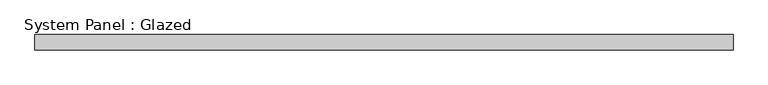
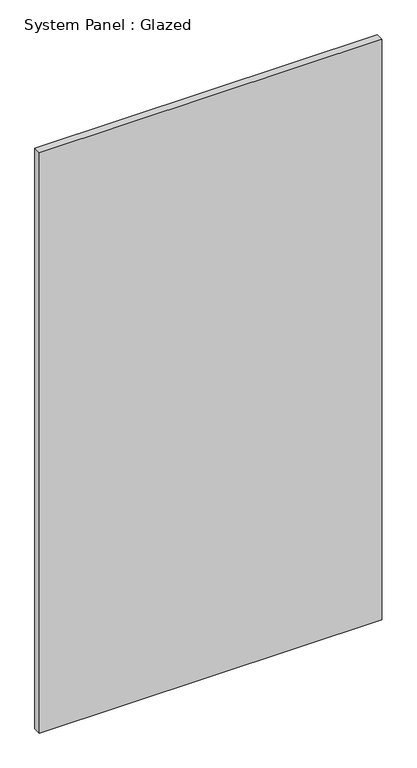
"""IFC4 building model written with IfcOpenShell, lengths in millimetres: plate geometry, System Panel : Glazed."""

from ifc_helpers import new_model, si_unit, origin, origin_with_axes, place, context, project, spatial, polyline, outline, extrude, source, transform, mapped, element, save


def system_panel_glazed_0ed27d1d(model_context):
    return source(origin(), model_context, "Body", "SweptSolid", [
        extrude(outline(polyline([(577.8500002, -44.45), (-577.8500002, -44.45), (-577.8500002, -19.05), (577.8500002, -19.05), (577.8500002, -44.45)])), origin_with_axes(), (0.0, 0.0, 1.0), 2070.1),
    ])


if __name__ == "__main__":
    model = new_model("IFC4")
    model_context = context("Model", 3, world=origin())
    ifc_project = project(units=[si_unit("LENGTHUNIT", "METRE", prefix="MILLI")], contexts=[model_context])
    site = spatial("IfcSite", under=ifc_project)
    building = spatial("IfcBuilding", under=site)
    placement = place(None, origin())
    system_panel_glazed_shape = system_panel_glazed_0ed27d1d(model_context)
    element("IfcPlate", 1, ObjectType="System Panel : Glazed", at=placement, inside=building, context=model_context, shape_type="MappedRepresentation", body=[
        mapped(system_panel_glazed_shape, transform((0.0, 0.0, 0.0), x_axis=(1.0, 0.0, 0.0), y_axis=(0.0, 1.0, 0.0), z_axis=(0.0, 0.0, 1.0))),
    ])
    save(model, "model.ifc")
